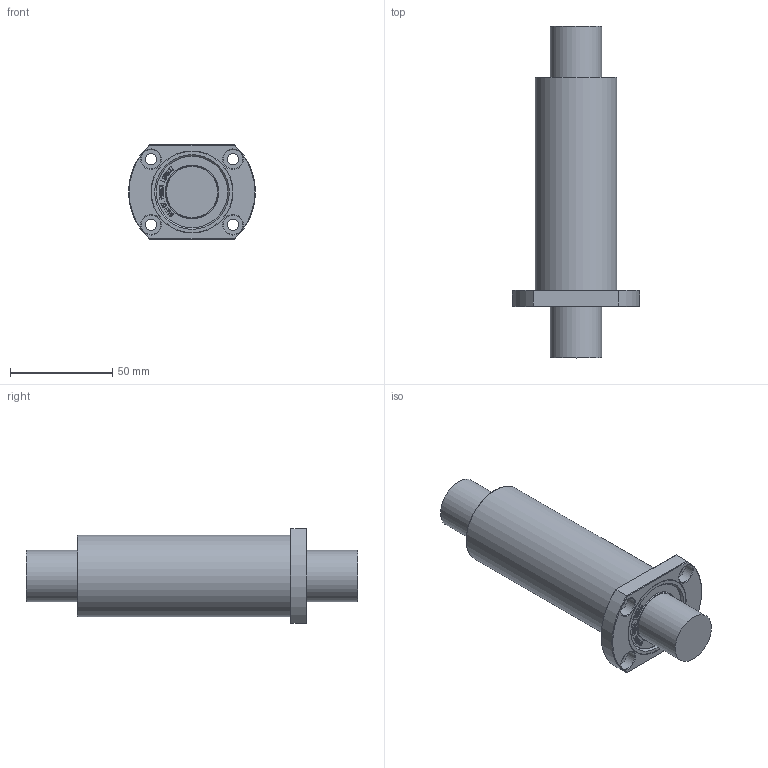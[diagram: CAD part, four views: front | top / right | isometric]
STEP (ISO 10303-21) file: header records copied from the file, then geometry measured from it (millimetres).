
FILE_DESCRIPTION(/* description */ (''),/* implementation_level */ '2;1');
FILE_NAME(/* name */ 'W:\(01) 2024년 홈페이지 CAD파일 최신화\LMH_L\IPT\LMH25LUU.stp',/* time_stamp */ '2025-01-23T10:14:56+09:00',/* author */ ('서우현'),/* organization */ (''),/* preprocessor_version */ 'ST-DEVELOPER v17.2',/* originating_system */ 'Autodesk Inventor 2019',/* authorisation */ '');
FILE_SCHEMA (('AUTOMOTIVE_DESIGN { 1 0 10303 214 3 1 1 }'));
Length unit declared in the file: millimetre
Products named in the file (1): LM5
Bounding box: 62 x 162 x 46 mm (x, y, z)
Volume: 173023 mm3; surface area: 24455 mm2
Topology: 1 solids, 1 shells, 886 faces, 2498 edges, 1668 vertices
Faces by surface type: bspline 612, plane 240, cone 16, cylinder 16, torus 2
Full cylindrical faces by diameter (mm): 5.5 x4, 9.5 x4, 25 x2, 34.8 x2, 40 x2
Entity records: 30214 total; most frequent: CARTESIAN_POINT 10577, ORIENTED_EDGE 4996, EDGE_CURVE 2498, DIRECTION 1898, VERTEX_POINT 1668, B_SPLINE_CURVE_WITH_KNOTS 1224, LINE 1184, VECTOR 1184
